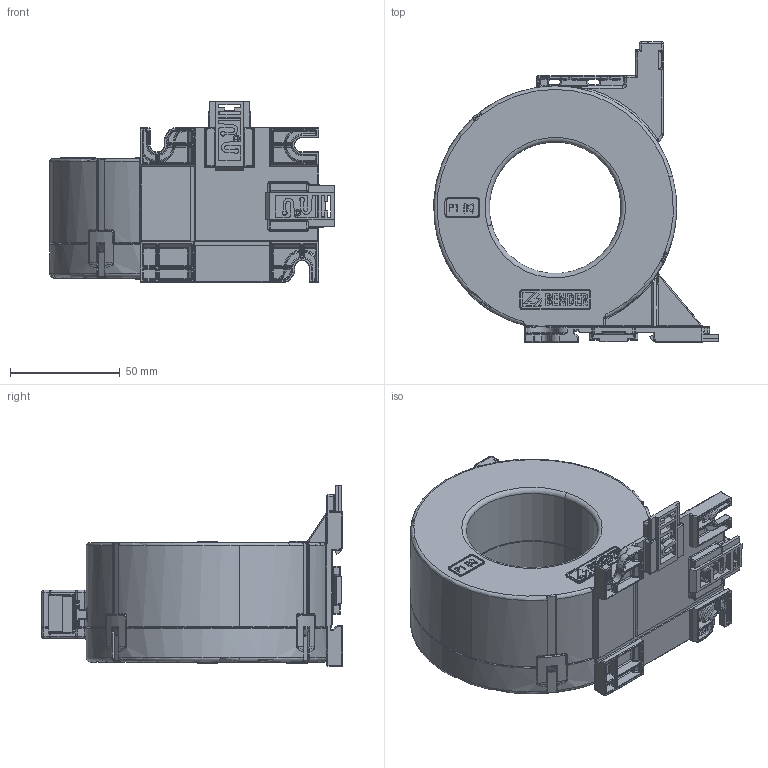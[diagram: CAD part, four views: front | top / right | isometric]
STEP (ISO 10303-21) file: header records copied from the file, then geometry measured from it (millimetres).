
FILE_DESCRIPTION (( 'STEP AP214' ), '1' );
FILE_NAME ('CTBC60.STEP', '2019-04-11T14:09:19', ( 'Administrator' ), ( '' ), 'SwSTEP 2.0', 'SolidWorks 2019', '' );
FILE_SCHEMA (( 'AUTOMOTIVE_DESIGN' ));
Length unit declared in the file: millimetre
Products named in the file (1): CTBC60
Bounding box: 129.7 x 137 x 82.4 mm (x, y, z)
Volume: 124383 mm3; surface area: 121153.3 mm2
Topology: 1 solids, 2 shells, 4233 faces, 10464 edges, 6121 vertices
Faces by surface type: cylinder 1324, plane 1179, bspline 913, torus 605, sphere 200, cone 12
Entity records: 200266 total; most frequent: CARTESIAN_POINT 60363, ORIENTED_EDGE 20428, DIRECTION 18283, EDGE_CURVE 10214, AXIS2_PLACEMENT_3D 6777, VERTEX_POINT 6104, LINE 4729, VECTOR 4729
